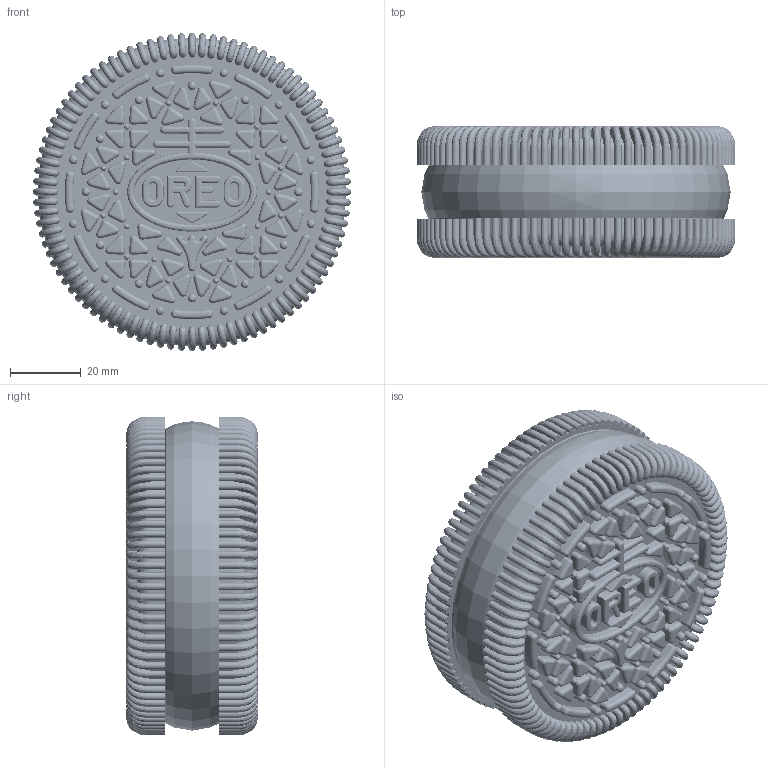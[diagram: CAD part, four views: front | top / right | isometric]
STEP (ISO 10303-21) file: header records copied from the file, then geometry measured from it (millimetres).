
FILE_DESCRIPTION(/* description */ (''),/* implementation_level */ '2;1');
FILE_NAME(/* name */ 'C:\IV2022WorkFolder\Designs\Bob\Oreo\Publish\OREO_90.stp',/* time_stamp */ '2023-01-06T13:31:08-06:00',/* author */ ('dotwibo2'),/* organization */ (''),/* preprocessor_version */ 'ST-DEVELOPER v18.1',/* originating_system */ 'Autodesk Inventor 2022',/* authorisation */ '');
FILE_SCHEMA (('CONFIG_CONTROL_DESIGN'));
Length unit declared in the file: millimetre
Products named in the file (4): OREO_90; COOKIE 90; Filling_Outer_90; Filling_Inner_90
Assembly tree (4 placements, depth 2):
  OREO_90
    COOKIE 90  x2
    Filling_Outer_90
    Filling_Inner_90
Bounding box: 90 x 37.1 x 90 mm (x, y, z)
Volume: 128604 mm3; surface area: 92818.2 mm2
Topology: 4 solids, 4 shells, 4491 faces, 11258 edges, 7017 vertices
Faces by surface type: cylinder 1857, plane 1240, bspline 546, sphere 468, torus 376, cone 4
Full cylindrical faces by diameter (mm): 1.6 x40, 2.4 x48, 72 x1, 75.375 x4, 76.575 x2, 79.175 x3, 80.375 x3, 83 x2, 84.4 x2
Entity records: 82695 total; most frequent: CARTESIAN_POINT 26863, DIRECTION 11877, ORIENTED_EDGE 11662, EDGE_CURVE 5831, AXIS2_PLACEMENT_3D 4540, VERTEX_POINT 3655, LINE 2797, VECTOR 2797
